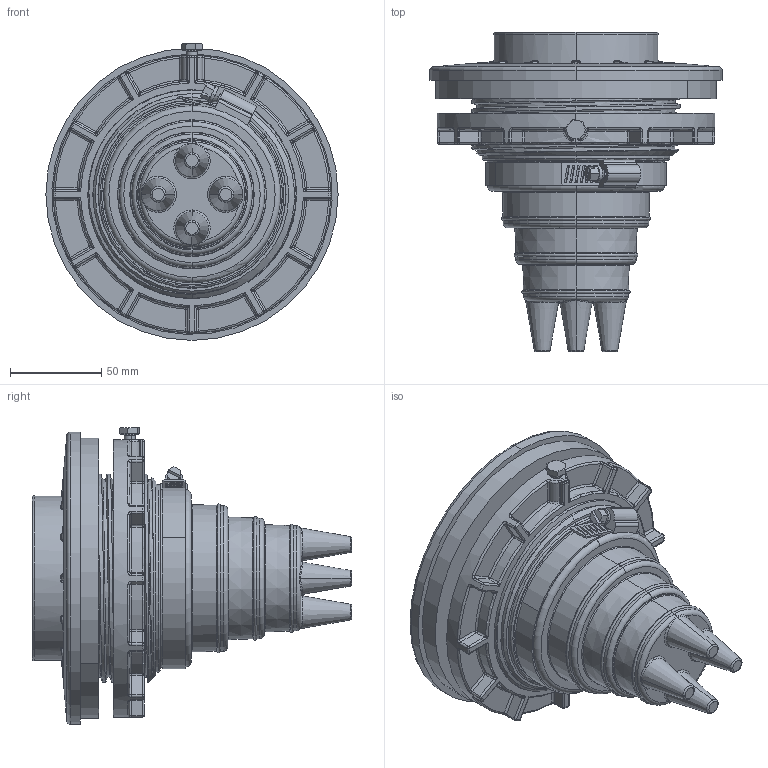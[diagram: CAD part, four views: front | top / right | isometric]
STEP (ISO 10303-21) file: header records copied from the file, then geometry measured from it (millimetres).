
FILE_DESCRIPTION (( 'STEP AP203' ), '1' );
FILE_NAME ('KPTM_75-54.step', '2011-08-08T11:44:22', ( '' ), ( '' ), 'SwSTEP 2.0', 'SolidWorks 2011', '' );
FILE_SCHEMA (( 'CONFIG_CONTROL_DESIGN' ));
Length unit declared in the file: millimetre
Products named in the file (1): KPTM_75-54
Bounding box: 160 x 174.89 x 162.54 mm (x, y, z)
Volume: 615773.6 mm3; surface area: 196259.4 mm2
Topology: 2 solids, 4 shells, 997 faces, 2376 edges, 1303 vertices
Faces by surface type: torus 242, bspline 211, cylinder 209, plane 175, cone 110, sphere 50
Entity records: 38481 total; most frequent: CARTESIAN_POINT 17572, ORIENTED_EDGE 4556, DIRECTION 4281, EDGE_CURVE 2278, AXIS2_PLACEMENT_3D 1855, VERTEX_POINT 1303, CIRCLE 1068, EDGE_LOOP 1023
